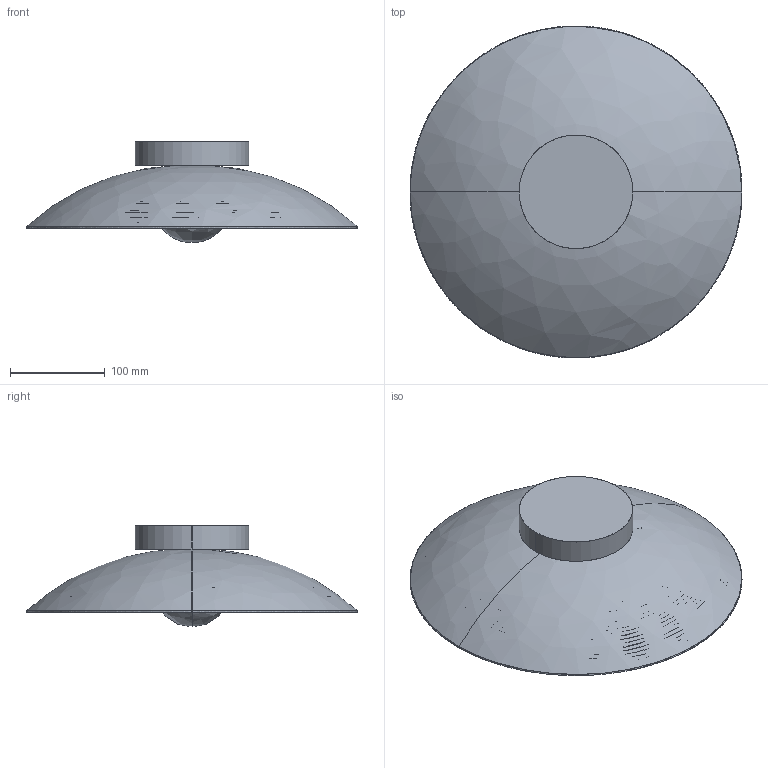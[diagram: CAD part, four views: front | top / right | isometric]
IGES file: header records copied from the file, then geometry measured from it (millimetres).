
Start section: SolidWorks IGES file using analytic representation for surfaces
Global section: file name: C:\Users\Agustin\Desktop\ENERO 2025\DANA\DANA_A1098_35.IGS; native system: SolidWorks 2018; preprocessor: SolidWorks 2018; author: Agustin; date: 250305.173323; units: millimetre
Bounding box: 350.64 x 350.65 x 106.58 mm (x, y, z)
Surface area: 331907.6 mm2 (no closed solid volume)
Topology: 0 solids, 0 shells, 269 faces, 1240 edges, 1236 vertices
Faces by surface type: bspline 261, revolution 8
